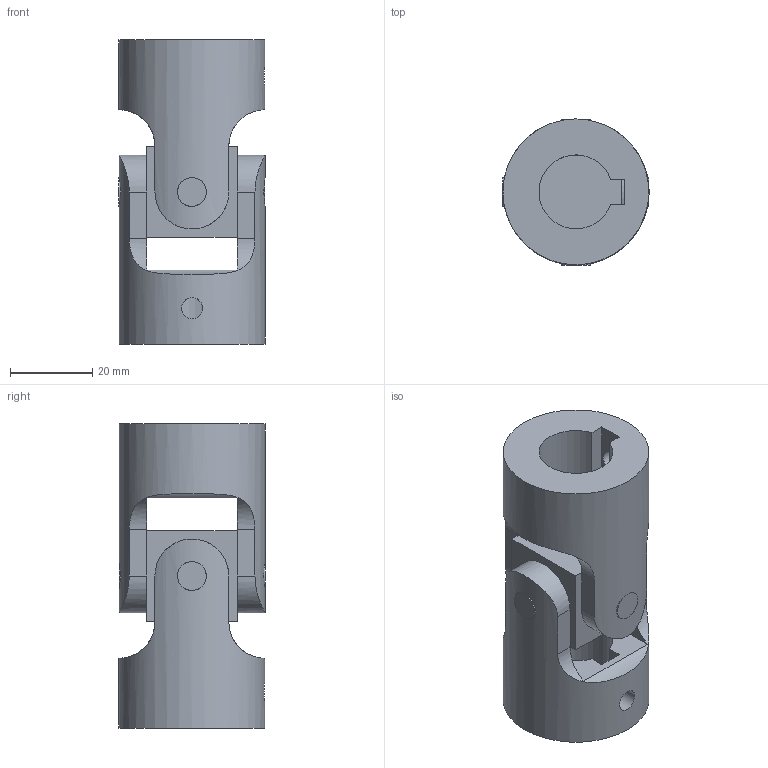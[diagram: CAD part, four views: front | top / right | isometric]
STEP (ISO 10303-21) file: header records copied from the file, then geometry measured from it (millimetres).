
FILE_DESCRIPTION(('STEP AP214'), '1');
FILE_NAME('06G-18KW18KW - ﾊ瑩萵澵隆 頏', '', ('UNSPECIFIED'), ('UNSPECIFIED'), 'ASCON STEP Converter 1.3', 'ASCON Math Kernel', '');
FILE_SCHEMA(('AUTOMOTIVE_DESIGN { 1 0 10303 214 3 1 1}'));
Length unit declared in the file: millimetre
Products named in the file (4): 06G-18KW/18KW
Assembly tree (5 placements, depth 2):
  06G-18KW/18KW
    (unnamed)  x2
    (unnamed)
    (unnamed)  x2
Bounding box: 35.55 x 35.55 x 74 mm (x, y, z)
Volume: 47873.3 mm3; surface area: 19455.7 mm2
Topology: 5 solids, 5 shells, 56 faces, 145 edges, 95 vertices
Faces by surface type: plane 32, cylinder 24
Full cylindrical faces by diameter (mm): 5.188 x2, 7 x10, 35.5 x2
Entity records: 2094 total; most frequent: CARTESIAN_POINT 801, DIRECTION 156, ORIENTED_EDGE 152, EDGE_CURVE 76, AXIS2_PLACEMENT_3D 57, VERTEX_POINT 56, EDGE_LOOP 54, FACE_BOUND 42
